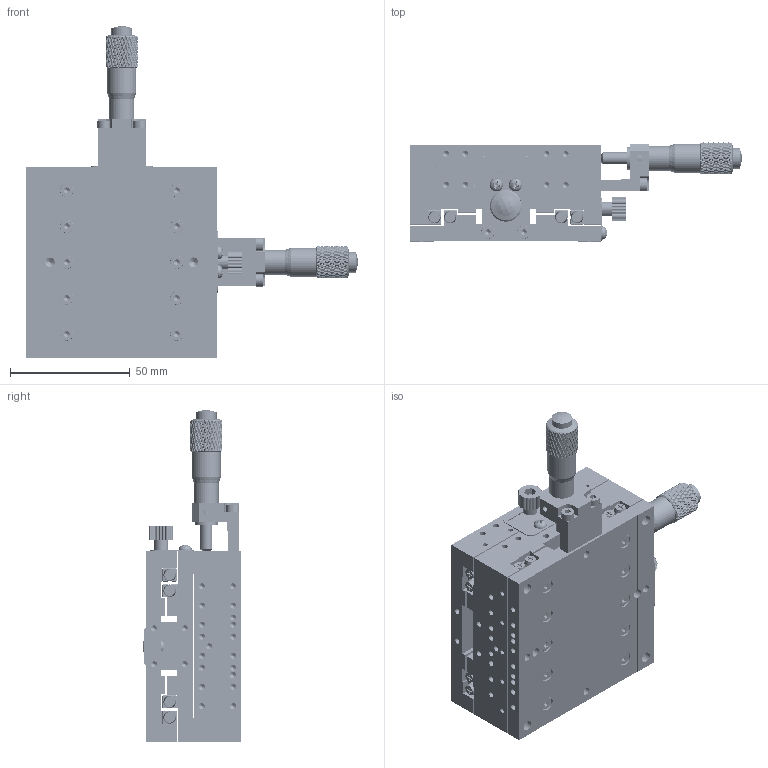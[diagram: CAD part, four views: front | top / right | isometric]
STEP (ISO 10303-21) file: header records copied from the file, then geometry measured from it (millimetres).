
FILE_DESCRIPTION (( 'STEP AP203' ), '1' );
FILE_NAME ('JCXY-80C-13.STEP', '2013-12-24T04:16:16', ( 'MMO' ), ( '' ), 'SwSTEP 2.0', 'SolidWorks 2013', '' );
FILE_SCHEMA (( 'CONFIG_CONTROL_DESIGN' ));
Length unit declared in the file: millimetre
Products named in the file (13): JALB-72-R; round cross head screw_ks_KS 1023 RC - M3 x 5-N; JCX-80-01-01; JCX-80C-13; JCX-80-02-01; JCX-80CL-13; JV2-75-13; socket head cap screw_ks_KS 1003 - M4 x 6 x 6-N; JCX-60-20T-005; JCXY-80C-13; JCX-60-18T-006; socket head cap screw_ks_KS 1003 - M3 x 5 x 5-N; JCX-60-18T-007
Assembly tree (74 placements, depth 3):
  JCXY-80C-13
    JCX-80C-13
      JCX-80-01-01
      JCX-80-02-01
      JV2-75-13  x4
      JCX-60-20T-005
      JCX-60-18T-006
      socket head cap screw_ks_KS 1003 - M3 x 5 x 5-N  x22
      JCX-60-18T-007
      JALB-72-R
      round cross head screw_ks_KS 1023 RC - M3 x 5-N  x2
    JCX-80CL-13
      JCX-80-01-01
      JCX-80-02-01
      JV2-75-13  x4
      socket head cap screw_ks_KS 1003 - M3 x 5 x 5-N  x22
      JCX-60-18T-007
      JALB-72-R
      JCX-60-20T-005
      round cross head screw_ks_KS 1023 RC - M3 x 5-N  x2
      JCX-60-18T-006
    socket head cap screw_ks_KS 1003 - M4 x 6 x 6-N  x4
Bounding box: 138.7 x 41.3 x 138.7 mm (x, y, z)
Volume: 226006.8 mm3; surface area: 117958.8 mm2
Topology: 72 solids, 72 shells, 5966 faces, 13726 edges, 7884 vertices
Faces by surface type: cylinder 1874, bspline 1664, plane 1596, cone 508, torus 304, sphere 20
Entity records: 71276 total; most frequent: CARTESIAN_POINT 33811, ORIENTED_EDGE 8578, DIRECTION 5625, EDGE_CURVE 4289, VERTEX_POINT 2503, AXIS2_PLACEMENT_3D 2279, EDGE_LOOP 2126, ADVANCED_FACE 1906
